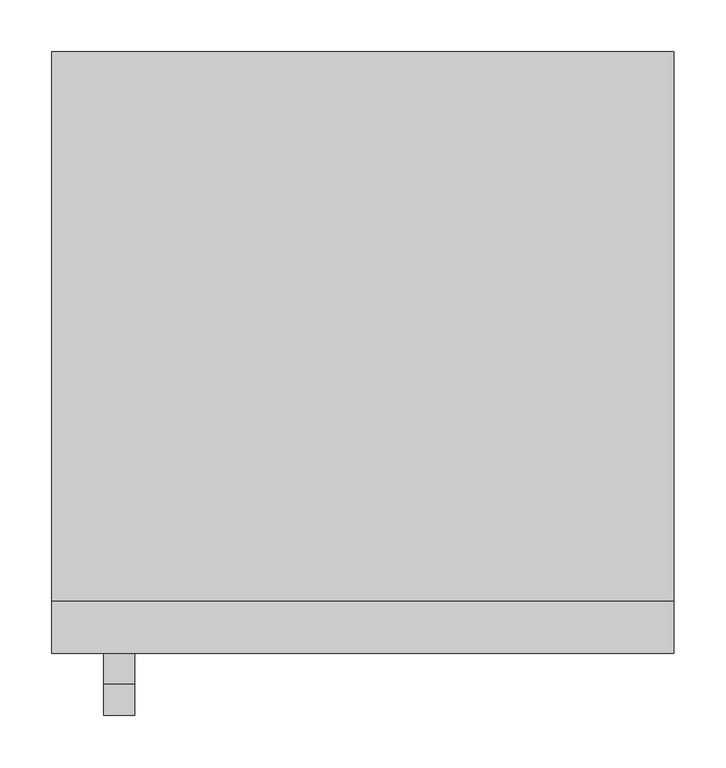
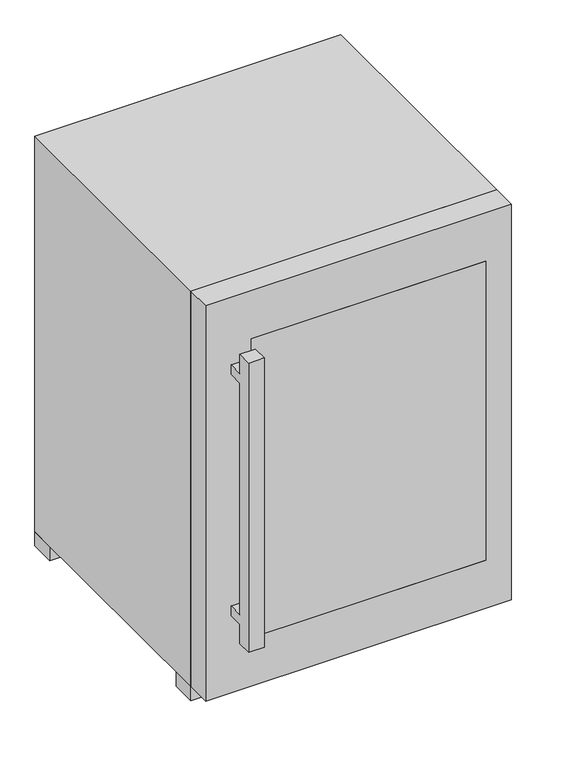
"""IFC4 building model written with IfcOpenShell, lengths in millimetres: proxy geometry, UWKes 1752_136 : UWKes 1752."""

from ifc_helpers import new_model, si_unit, point, frame, frame_2d, origin, place, context, project, spatial, polyline, circle_curve, trimmed, segment, composite_curve, outline, extrude, faceted_brep, source, transform, mapped, element, save


def specialty_equipment_71cc2146(model_context):
    return source(origin(), model_context, "Body", "SolidModel", [
        extrude(outline(polyline([(-450.0, -79.8345306), (-450.0, -169.2423783), (-450.0, -559.8345306), (-910.0, -559.8345306), (-910.0, -79.8345306), (-450.0, -79.8345306)]), holes=[polyline([(-801.488617, -109.8345306), (-880.0, -109.8345306), (-880.0, -529.8345306), (-826.488617, -529.8345306), (-801.488617, -529.8345306), (-801.488617, -109.8345306)]), polyline([(-785.8000423, -529.8345306), (-721.488617, -529.8345306), (-721.488617, -109.8345306), (-785.8000423, -109.8345306), (-785.8000423, -529.8345306)]), polyline([(-705.8000423, -529.8345306), (-636.488617, -529.8345306), (-636.488617, -109.8345306), (-705.8000423, -109.8345306), (-705.8000423, -529.8345306)]), polyline([(-480.0, -109.8345306), (-550.8000423, -109.8345306), (-550.8000423, -529.8345306), (-480.0, -529.8345306), (-480.0, -109.8345306)]), polyline([(-620.8000423, -529.8345306), (-566.488617, -529.8345306), (-566.488617, -109.8345306), (-620.8000423, -109.8345306), (-620.8000423, -529.8345306)])]), frame((0.0, 0.0, 1011.8132517), z_axis=(0.0, 0.0, 1.0), x_axis=(1.0, 0.0, 0.0)), (0.0, 0.0, 1.0), 20.0),
        extrude(outline(polyline([(-450.0, -79.8345306), (-450.0, -169.2423783), (-450.0, -559.8345306), (-910.0, -559.8345306), (-910.0, -79.8345306), (-450.0, -79.8345306)]), holes=[polyline([(-801.488617, -109.8345306), (-880.0, -109.8345306), (-880.0, -529.8345306), (-826.488617, -529.8345306), (-801.488617, -529.8345306), (-801.488617, -109.8345306)]), polyline([(-785.8000423, -529.8345306), (-721.488617, -529.8345306), (-721.488617, -109.8345306), (-785.8000423, -109.8345306), (-785.8000423, -529.8345306)]), polyline([(-705.8000423, -529.8345306), (-636.488617, -529.8345306), (-636.488617, -109.8345306), (-705.8000423, -109.8345306), (-705.8000423, -529.8345306)]), polyline([(-480.0, -109.8345306), (-550.8000423, -109.8345306), (-550.8000423, -529.8345306), (-480.0, -529.8345306), (-480.0, -109.8345306)]), polyline([(-620.8000423, -529.8345306), (-566.488617, -529.8345306), (-566.488617, -109.8345306), (-620.8000423, -109.8345306), (-620.8000423, -529.8345306)])]), frame((0.0, 0.0, 856.8132517), z_axis=(0.0, 0.0, 1.0), x_axis=(1.0, 0.0, 0.0)), (0.0, 0.0, 1.0), 10.0),
        extrude(outline(polyline([(-450.0, -79.8345306), (-450.0, -169.2423783), (-450.0, -559.8345306), (-910.0, -559.8345306), (-910.0, -79.8345306), (-450.0, -79.8345306)]), holes=[polyline([(-801.488617, -109.8345306), (-880.0, -109.8345306), (-880.0, -529.8345306), (-826.488617, -529.8345306), (-801.488617, -529.8345306), (-801.488617, -109.8345306)]), polyline([(-785.8000423, -529.8345306), (-721.488617, -529.8345306), (-721.488617, -109.8345306), (-785.8000423, -109.8345306), (-785.8000423, -529.8345306)]), polyline([(-705.8000423, -529.8345306), (-636.488617, -529.8345306), (-636.488617, -109.8345306), (-705.8000423, -109.8345306), (-705.8000423, -529.8345306)]), polyline([(-480.0, -109.8345306), (-550.8000423, -109.8345306), (-550.8000423, -529.8345306), (-480.0, -529.8345306), (-480.0, -109.8345306)]), polyline([(-620.8000423, -529.8345306), (-566.488617, -529.8345306), (-566.488617, -109.8345306), (-620.8000423, -109.8345306), (-620.8000423, -529.8345306)])]), frame((0.0, 0.0, 691.8132517), z_axis=(0.0, 0.0, 1.0), x_axis=(1.0, 0.0, 0.0)), (0.0, 0.0, 1.0), 20.0),
        extrude(outline(polyline([(-450.0, -79.8345306), (-450.0, -169.2423783), (-450.0, -559.8345306), (-910.0, -559.8345306), (-910.0, -79.8345306), (-450.0, -79.8345306)]), holes=[polyline([(-801.488617, -109.8345306), (-880.0, -109.8345306), (-880.0, -529.8345306), (-826.488617, -529.8345306), (-801.488617, -529.8345306), (-801.488617, -109.8345306)]), polyline([(-785.8000423, -529.8345306), (-721.488617, -529.8345306), (-721.488617, -109.8345306), (-785.8000423, -109.8345306), (-785.8000423, -529.8345306)]), polyline([(-705.8000423, -529.8345306), (-636.488617, -529.8345306), (-636.488617, -109.8345306), (-705.8000423, -109.8345306), (-705.8000423, -529.8345306)]), polyline([(-480.0, -109.8345306), (-550.8000423, -109.8345306), (-550.8000423, -529.8345306), (-480.0, -529.8345306), (-480.0, -109.8345306)]), polyline([(-620.8000423, -529.8345306), (-566.488617, -529.8345306), (-566.488617, -109.8345306), (-620.8000423, -109.8345306), (-620.8000423, -529.8345306)])]), frame((0.0, 0.0, 596.8132517), z_axis=(0.0, 0.0, 1.0), x_axis=(1.0, 0.0, 0.0)), (0.0, 0.0, 1.0), 20.0),
        extrude(outline(polyline([(-450.0, -79.8345306), (-450.0, -179.076909), (-450.0, -559.8345306), (-910.0, -559.8345306), (-910.0, -79.8345306), (-450.0, -79.8345306)]), holes=[polyline([(-801.488617, -109.8345306), (-880.0, -109.8345306), (-880.0, -529.8345306), (-826.488617, -529.8345306), (-801.488617, -529.8345306), (-801.488617, -109.8345306)]), polyline([(-785.8000423, -529.8345306), (-721.488617, -529.8345306), (-721.488617, -109.8345306), (-785.8000423, -109.8345306), (-785.8000423, -529.8345306)]), polyline([(-705.8000423, -529.8345306), (-636.488617, -529.8345306), (-636.488617, -109.8345306), (-705.8000423, -109.8345306), (-705.8000423, -529.8345306)]), polyline([(-480.0, -109.8345306), (-550.8000423, -109.8345306), (-550.8000423, -529.8345306), (-480.0, -529.8345306), (-480.0, -109.8345306)]), polyline([(-620.8000423, -529.8345306), (-566.488617, -529.8345306), (-566.488617, -109.8345306), (-620.8000423, -109.8345306), (-620.8000423, -529.8345306)])]), frame((0.0, 0.0, 496.8132517), z_axis=(0.0, 0.0, 1.0), x_axis=(1.0, 0.0, 0.0)), (0.0, 0.0, 1.0), 20.0),
        extrude(outline(polyline([(-675.4241817, -564.6614989), (-700.4241817, -564.6614989), (-700.4241817, -559.8345306), (-675.4241817, -559.8345306), (-675.4241817, -564.6614989)])), frame((0.0, 0.0, 813.8669461), z_axis=(0.0, 0.0, 1.0), x_axis=(1.0, 0.0, 0.0)), (0.0, 0.0, 1.0), 17.0975099),
        extrude(outline(composite_curve([segment(trimmed(circle_curve(frame_2d((825.5728538, -643.0128047)), 0.8308047), [point((825.5728538, -643.8436094))], [point((825.5728538, -642.182))], False, "CARTESIAN"), True, "CONTINUOUS"), segment(trimmed(circle_curve(frame_2d((825.5728538, -643.0128047)), 0.8308047), [point((825.5728538, -642.182))], [point((825.5728538, -643.8436094))], False, "CARTESIAN"), True, "CONTINUOUS")], self_intersect=False)), frame((0.0, -564.6614989, 0.0), z_axis=(0.0, 1.0, 0.0), x_axis=(0.0, 0.0, 1.0)), (0.0, 0.0, 1.0), 4.8269683),
        extrude(outline(composite_curve([segment(trimmed(circle_curve(frame_2d((825.5728538, -633.0128047)), 0.8308047), [point((825.5728538, -633.8436094))], [point((825.5728538, -632.182))], False, "CARTESIAN"), True, "CONTINUOUS"), segment(trimmed(circle_curve(frame_2d((825.5728538, -633.0128047)), 0.8308047), [point((825.5728538, -632.182))], [point((825.5728538, -633.8436094))], False, "CARTESIAN"), True, "CONTINUOUS")], self_intersect=False)), frame((0.0, -564.6614989, 0.0), z_axis=(0.0, 1.0, 0.0), x_axis=(0.0, 0.0, 1.0)), (0.0, 0.0, 1.0), 4.8269683),
        extrude(outline(composite_curve([segment(trimmed(circle_curve(frame_2d((825.5728538, -623.0128047)), 0.8308047), [point((825.5728538, -623.8436094))], [point((825.5728538, -622.182))], False, "CARTESIAN"), True, "CONTINUOUS"), segment(trimmed(circle_curve(frame_2d((825.5728538, -623.0128047)), 0.8308047), [point((825.5728538, -622.182))], [point((825.5728538, -623.8436094))], False, "CARTESIAN"), True, "CONTINUOUS")], self_intersect=False)), frame((0.0, -564.6614989, 0.0), z_axis=(0.0, 1.0, 0.0), x_axis=(0.0, 0.0, 1.0)), (0.0, 0.0, 1.0), 4.8269683),
        extrude(outline(composite_curve([segment(trimmed(circle_curve(frame_2d((822.5354583, -758.0128047)), 0.8308047), [point((822.5354583, -758.8436094))], [point((822.5354583, -757.182))], False, "CARTESIAN"), True, "CONTINUOUS"), segment(trimmed(circle_curve(frame_2d((822.5354583, -758.0128047)), 0.8308047), [point((822.5354583, -757.182))], [point((822.5354583, -758.8436094))], False, "CARTESIAN"), True, "CONTINUOUS")], self_intersect=False)), frame((0.0, -564.6614989, 0.0), z_axis=(0.0, 1.0, 0.0), x_axis=(0.0, 0.0, 1.0)), (0.0, 0.0, 1.0), 4.8269683),
        extrude(outline(composite_curve([segment(trimmed(circle_curve(frame_2d((825.5728538, -748.0128047)), 0.8308047), [point((825.5728538, -748.8436094))], [point((825.5728538, -747.182))], False, "CARTESIAN"), True, "CONTINUOUS"), segment(trimmed(circle_curve(frame_2d((825.5728538, -748.0128047)), 0.8308047), [point((825.5728538, -747.182))], [point((825.5728538, -748.8436094))], False, "CARTESIAN"), True, "CONTINUOUS")], self_intersect=False)), frame((0.0, -564.6614989, 0.0), z_axis=(0.0, 1.0, 0.0), x_axis=(0.0, 0.0, 1.0)), (0.0, 0.0, 1.0), 4.8269683),
        extrude(outline(composite_curve([segment(trimmed(circle_curve(frame_2d((825.5728538, -738.0128047)), 0.8308047), [point((825.5728538, -738.8436094))], [point((825.5728538, -737.182))], False, "CARTESIAN"), True, "CONTINUOUS"), segment(trimmed(circle_curve(frame_2d((825.5728538, -738.0128047)), 0.8308047), [point((825.5728538, -737.182))], [point((825.5728538, -738.8436094))], False, "CARTESIAN"), True, "CONTINUOUS")], self_intersect=False)), frame((0.0, -564.6614989, 0.0), z_axis=(0.0, 1.0, 0.0), x_axis=(0.0, 0.0, 1.0)), (0.0, 0.0, 1.0), 4.8269683),
        extrude(outline(polyline([(-450.0, -79.8345306), (-450.0, -213.4669684), (-450.0, -559.8345306), (-920.0, -559.8345306), (-920.0, -79.8345306), (-450.0, -79.8345306)])), frame((0.0, 0.0, 796.8132517), z_axis=(0.0, 0.0, 1.0), x_axis=(1.0, 0.0, 0.0)), (0.0, 0.0, 1.0), 60.0),
        extrude(outline(polyline([(-450.0, -609.8345306), (-910.0, -609.8345306), (-910.0, -559.8345306), (-450.0, -559.8345306), (-450.0, -609.8345306)])), frame((0.0, 0.0, 496.8132517), z_axis=(0.0, 0.0, 1.0), x_axis=(1.0, 0.0, 0.0)), (0.0, 0.0, 1.0), 620.0),
        extrude(outline(polyline([(1216.8132517, -400.0), (1216.8132517, -1000.0), (396.8132517, -1000.0), (396.8132517, -400.0), (1216.8132517, -400.0)]), holes=[polyline([(1116.8132517, -910.0), (1116.8132517, -450.0), (496.8132517, -450.0), (496.8132517, -910.0), (1116.8132517, -910.0)])]), frame((0.0, -609.8345306, 0.0), z_axis=(0.0, 1.0, 0.0), x_axis=(0.0, 0.0, 1.0)), (0.0, 0.0, 1.0), 50.0),
        faceted_brep([(-400.0, -559.8345306, 1216.8132517), (-1000.0, -559.8345306, 1216.8132517), (-1000.0, -559.8345306, 396.8132517), (-400.0, -559.8345306, 396.8132517), (-910.0, -559.8345306, 1116.8132517), (-450.0, -559.8345306, 1116.8132517), (-450.0, -559.8345306, 496.8132517), (-910.0, -559.8345306, 496.8132517), (-400.0, -29.8345306, 1216.8132517), (-400.0, -29.8345306, 396.8132517), (-1000.0, -29.8345306, 396.8132517), (-1000.0, -29.8345306, 1216.8132517), (-450.0, -79.8345306, 1116.8132517), (-910.0, -79.8345306, 1116.8132517), (-910.0, -79.8345306, 496.8132517), (-450.0, -79.8345306, 496.8132517)], [[[0, 1, 2, 3], [4, 5, 6, 7]], [[8, 9, 10, 11]], [[1, 0, 8, 11]], [[2, 1, 11, 10]], [[3, 2, 10, 9]], [[0, 3, 9, 8]], [[12, 13, 14, 15]], [[13, 12, 5, 4]], [[14, 13, 4, 7]], [[15, 14, 7, 6]], [[12, 15, 6, 5]]]),
        extrude(outline(polyline([(-400.0, -509.8345306), (-400.0, -559.8345306), (-450.0, -559.8345306), (-450.0, -509.8345306), (-400.0, -509.8345306)])), frame((0.0, 0.0, 366.8132517), z_axis=(0.0, 0.0, 1.0), x_axis=(1.0, 0.0, 0.0)), (0.0, 0.0, 1.0), 30.0),
        extrude(outline(polyline([(-400.0, -29.8345306), (-400.0, -79.8345306), (-450.0, -79.8345306), (-450.0, -29.8345306), (-400.0, -29.8345306)])), frame((0.0, 0.0, 366.8132517), z_axis=(0.0, 0.0, 1.0), x_axis=(1.0, 0.0, 0.0)), (0.0, 0.0, 1.0), 30.0),
        extrude(outline(polyline([(-950.0, -29.8345306), (-950.0, -79.8345306), (-1000.0, -79.8345306), (-1000.0, -29.8345306), (-950.0, -29.8345306)])), frame((0.0, 0.0, 366.8132517), z_axis=(0.0, 0.0, 1.0), x_axis=(1.0, 0.0, 0.0)), (0.0, 0.0, 1.0), 30.0),
        extrude(outline(polyline([(-950.0, -509.8345306), (-950.0, -559.8345306), (-1000.0, -559.8345306), (-1000.0, -509.8345306), (-950.0, -509.8345306)])), frame((0.0, 0.0, 366.8132517), z_axis=(0.0, 0.0, 1.0), x_axis=(1.0, 0.0, 0.0)), (0.0, 0.0, 1.0), 30.0),
        extrude(outline(polyline([(-639.8345306, 1076.8132517), (-609.8345306, 1076.8132517), (-609.8345306, 1056.8132517), (-639.8345306, 1056.8132517), (-639.8345306, 576.8132517), (-609.8345306, 576.8132517), (-609.8345306, 556.8132517), (-639.8345306, 556.8132517), (-639.8345306, 516.8132517), (-669.8345306, 516.8132517), (-669.8345306, 1116.8132517), (-639.8345306, 1116.8132517), (-639.8345306, 1076.8132517)])), frame((-950.0, 0.0, 0.0), z_axis=(1.0, 0.0, 0.0), x_axis=(0.0, 1.0, 0.0)), (0.0, 0.0, 1.0), 30.0),
    ])


if __name__ == "__main__":
    model = new_model("IFC4")
    model_context = context("Model", 3, world=origin())
    ifc_project = project(units=[si_unit("LENGTHUNIT", "METRE", prefix="MILLI")], contexts=[model_context])
    site = spatial("IfcSite", under=ifc_project)
    building = spatial("IfcBuilding", under=site)
    placement = place(None, origin())
    specialty_equipment_shape = specialty_equipment_71cc2146(model_context)
    element("IfcBuildingElementProxy", 1, Name="UWKes 1752_136 : UWKes 1752", ObjectType="UWKes 1752_136 : UWKes 1752", at=placement, inside=building, context=model_context, shape_type="MappedRepresentation", body=[
        mapped(specialty_equipment_shape, transform((0.0, 0.0, 0.0), x_axis=(1.0, 0.0, 0.0), y_axis=(0.0, 1.0, 0.0), z_axis=(0.0, 0.0, 1.0))),
    ])
    save(model, "model.ifc")
